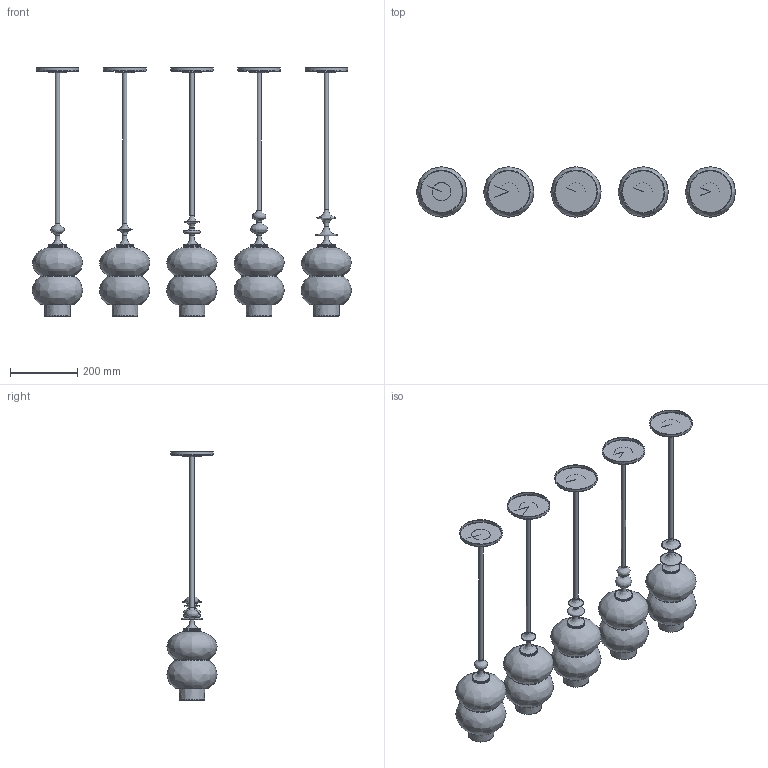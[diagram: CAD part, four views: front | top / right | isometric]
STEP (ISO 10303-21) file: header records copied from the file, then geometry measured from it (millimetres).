
FILE_DESCRIPTION(/* description */ (''),/* implementation_level */ '2;1');
FILE_NAME(/* name */ 'SkLO_AvroKO_PrincePendant_3D_LT611-615',/* time_stamp */ '2025-08-04T11:48:59+02:00',/* author */ (''),/* organization */ (''),/* preprocessor_version */ 'ST-DEVELOPER v16.5',/* originating_system */ 'Rhino 7.38',/* authorisation */ '');
FILE_SCHEMA (('CONFIG_CONTROL_DESIGN'));
Length unit declared in the file: millimetre
Products named in the file (1): Document
Bounding box: 949.93 x 150 x 738.94 mm (x, y, z)
Volume: 4041558.2 mm3; surface area: 1803157.4 mm2
Topology: 80 solids, 81 shells, 676 faces, 1451 edges, 829 vertices
Faces by surface type: bspline 379, cylinder 171, plane 126
Full cylindrical faces by diameter (mm): 11 x1, 13 x5, 18.275 x5, 20 x5, 22 x5, 25 x5, 28.633 x5, 31.497 x5, 32.18 x5, 32.2 x10, 32.317 x25, 33 x5, 34 x5, 34.074 x5, 36 x10, 38 x5, 42 x5, 50 x10, 52 x10, 90 x5, 124 x5, 127 x5
Entity records: 114616 total; most frequent: CARTESIAN_POINT 105931, ORIENTED_EDGE 2767, EDGE_CURVE 1384, VERTEX_POINT 829, EDGE_LOOP 706, ADVANCED_FACE 676, FACE_OUTER_BOUND 676, B_SPLINE_CURVE_WITH_KNOTS 463
